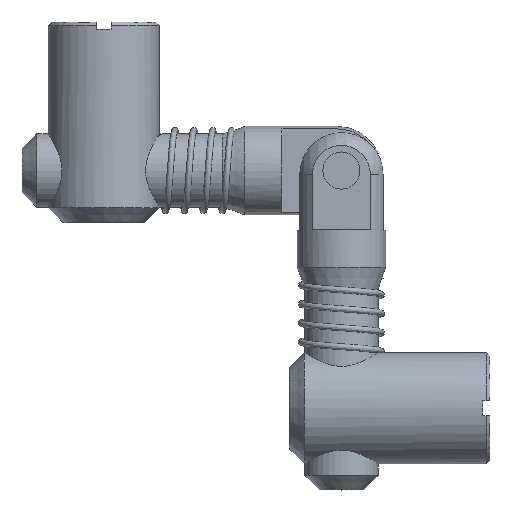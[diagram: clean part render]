
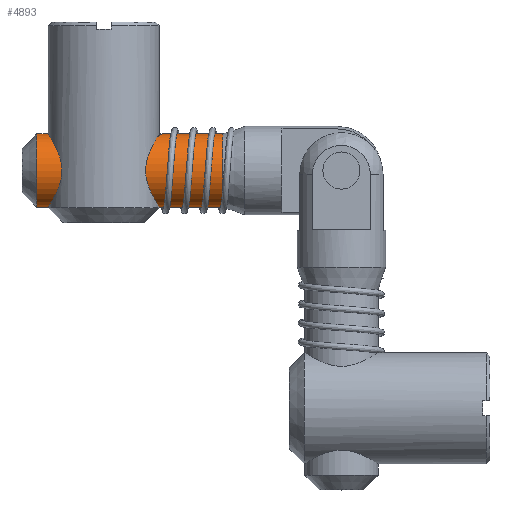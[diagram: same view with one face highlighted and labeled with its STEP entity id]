
A CAD part, top view. The second image highlights one B-rep face of the part: STEP entity #4893.
In plain terms, the highlighted cylindrical face has radius 4.95 mm (diameter 9.9 mm), a full revolution.
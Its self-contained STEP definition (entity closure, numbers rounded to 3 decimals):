
#20=FACE_BOUND('',#642,.T.);
#136=B_SPLINE_CURVE_WITH_KNOTS('',3,(#10367,#10368,#10369,#10370,#10371,
#10372,#10373,#10374,#10375,#10376,#10377,#10378,#10379,#10380,#10381,#10382,
#10383,#10384,#10385,#10386,#10387,#10388,#10389,#10390,#10391,#10392,#10393,
#10394,#10395,#10396,#10397,#10398,#10399,#10400,#10401,#10402,#10403,#10404,
#10405,#10406,#10407,#10408,#10409,#10410,#10411,#10412,#10413,#10414,#10415,
#10416),.UNSPECIFIED.,.T.,.F.,(4,2,2,2,2,2,2,2,2,2,2,2,2,2,2,2,2,2,2,2,
2,2,2,2,4),(-3.105,-2.92,-2.734,-2.625,
-2.515,-2.422,-2.329,-2.236,
-2.142,-2.033,-1.923,-1.738,
-1.552,-1.387,-1.221,-1.102,
-0.982,-0.879,-0.776,-0.673,
-0.57,-0.451,-0.331,-0.165,
0.),.UNSPECIFIED.);
#380=FACE_OUTER_BOUND('',#641,.T.);
#641=EDGE_LOOP('',(#3565,#3566,#3567,#3568));
#642=EDGE_LOOP('',(#3569));
#908=LINE('',#10421,#1447);
#1447=VECTOR('',#5705,4.95);
#1990=CIRCLE('',#5191,4.95);
#1991=CIRCLE('',#5192,4.95);
#2198=VERTEX_POINT('',#10365);
#2199=VERTEX_POINT('',#10418);
#2200=VERTEX_POINT('',#10420);
#2738=EDGE_CURVE('',#2198,#2198,#136,.T.);
#2739=EDGE_CURVE('',#2199,#2199,#1990,.T.);
#2740=EDGE_CURVE('',#2199,#2200,#908,.T.);
#2741=EDGE_CURVE('',#2200,#2200,#1991,.T.);
#3565=ORIENTED_EDGE('',*,*,#2739,.F.);
#3566=ORIENTED_EDGE('',*,*,#2740,.T.);
#3567=ORIENTED_EDGE('',*,*,#2741,.T.);
#3568=ORIENTED_EDGE('',*,*,#2740,.F.);
#3569=ORIENTED_EDGE('',*,*,#2738,.F.);
#4860=CYLINDRICAL_SURFACE('',#5190,4.95);
#4893=ADVANCED_FACE('',(#380,#20),#4860,.T.);
#5190=AXIS2_PLACEMENT_3D('',#10417,#5701,#5702);
#5191=AXIS2_PLACEMENT_3D('',#10419,#5703,#5704);
#5192=AXIS2_PLACEMENT_3D('',#10422,#5706,#5707);
#5701=DIRECTION('center_axis',(1.,0.,0.));
#5702=DIRECTION('ref_axis',(0.,0.,
-1.));
#5703=DIRECTION('center_axis',(1.,0.,0.));
#5704=DIRECTION('ref_axis',(0.,0.,
-1.));
#5705=DIRECTION('',(-1.,0.,0.));
#5706=DIRECTION('center_axis',(1.,0.,0.));
#5707=DIRECTION('ref_axis',(0.,0.,
-1.));
#10365=CARTESIAN_POINT('',(-26.804,19.219,-1.376));
#10367=CARTESIAN_POINT('Ctrl Pts',(-26.804,19.219,-1.376));
#10368=CARTESIAN_POINT('Ctrl Pts',(-27.422,19.219,-1.376));
#10369=CARTESIAN_POINT('Ctrl Pts',(-28.085,19.311,-1.311));
#10370=CARTESIAN_POINT('Ctrl Pts',(-29.347,19.635,-1.033));
#10371=CARTESIAN_POINT('Ctrl Pts',(-29.948,19.86,-0.82));
#10372=CARTESIAN_POINT('Ctrl Pts',(-30.766,20.207,-0.399));
#10373=CARTESIAN_POINT('Ctrl Pts',(-31.084,20.352,-0.202));
#10374=CARTESIAN_POINT('Ctrl Pts',(-31.665,20.632,0.262));
#10375=CARTESIAN_POINT('Ctrl Pts',(-31.928,20.766,0.53));
#10376=CARTESIAN_POINT('Ctrl Pts',(-32.311,20.966,1.049));
#10377=CARTESIAN_POINT('Ctrl Pts',(-32.475,21.053,1.334));
#10378=CARTESIAN_POINT('Ctrl Pts',(-32.697,21.173,1.948));
#10379=CARTESIAN_POINT('Ctrl Pts',(-32.754,21.204,2.278));
#10380=CARTESIAN_POINT('Ctrl Pts',(-32.754,21.204,2.899));
#10381=CARTESIAN_POINT('Ctrl Pts',(-32.697,21.173,3.228));
#10382=CARTESIAN_POINT('Ctrl Pts',(-32.475,21.053,3.843));
#10383=CARTESIAN_POINT('Ctrl Pts',(-32.311,20.966,4.128));
#10384=CARTESIAN_POINT('Ctrl Pts',(-31.928,20.766,4.647));
#10385=CARTESIAN_POINT('Ctrl Pts',(-31.665,20.632,4.915));
#10386=CARTESIAN_POINT('Ctrl Pts',(-31.084,20.352,5.379));
#10387=CARTESIAN_POINT('Ctrl Pts',(-30.766,20.207,5.576));
#10388=CARTESIAN_POINT('Ctrl Pts',(-29.948,19.86,5.997));
#10389=CARTESIAN_POINT('Ctrl Pts',(-29.347,19.635,6.21));
#10390=CARTESIAN_POINT('Ctrl Pts',(-28.085,19.311,6.488));
#10391=CARTESIAN_POINT('Ctrl Pts',(-27.422,19.219,6.553));
#10392=CARTESIAN_POINT('Ctrl Pts',(-26.252,19.219,6.553));
#10393=CARTESIAN_POINT('Ctrl Pts',(-25.658,19.292,6.501));
#10394=CARTESIAN_POINT('Ctrl Pts',(-24.517,19.559,6.278));
#10395=CARTESIAN_POINT('Ctrl Pts',(-23.969,19.747,6.107));
#10396=CARTESIAN_POINT('Ctrl Pts',(-23.151,20.071,5.747));
#10397=CARTESIAN_POINT('Ctrl Pts',(-22.792,20.229,5.552));
#10398=CARTESIAN_POINT('Ctrl Pts',(-22.131,20.539,5.084));
#10399=CARTESIAN_POINT('Ctrl Pts',(-21.829,20.69,4.808));
#10400=CARTESIAN_POINT('Ctrl Pts',(-21.382,20.921,4.263));
#10401=CARTESIAN_POINT('Ctrl Pts',(-21.189,21.023,3.958));
#10402=CARTESIAN_POINT('Ctrl Pts',(-20.924,21.166,3.292));
#10403=CARTESIAN_POINT('Ctrl Pts',(-20.854,21.204,2.931));
#10404=CARTESIAN_POINT('Ctrl Pts',(-20.854,21.204,2.246));
#10405=CARTESIAN_POINT('Ctrl Pts',(-20.924,21.166,1.885));
#10406=CARTESIAN_POINT('Ctrl Pts',(-21.189,21.023,1.219));
#10407=CARTESIAN_POINT('Ctrl Pts',(-21.382,20.921,0.914));
#10408=CARTESIAN_POINT('Ctrl Pts',(-21.829,20.69,0.368));
#10409=CARTESIAN_POINT('Ctrl Pts',(-22.131,20.539,0.093));
#10410=CARTESIAN_POINT('Ctrl Pts',(-22.792,20.229,-0.376));
#10411=CARTESIAN_POINT('Ctrl Pts',(-23.151,20.071,-0.57));
#10412=CARTESIAN_POINT('Ctrl Pts',(-23.969,19.747,-0.93));
#10413=CARTESIAN_POINT('Ctrl Pts',(-24.517,19.559,-1.101));
#10414=CARTESIAN_POINT('Ctrl Pts',(-25.658,19.292,-1.324));
#10415=CARTESIAN_POINT('Ctrl Pts',(-26.252,19.219,-1.376));
#10416=CARTESIAN_POINT('Ctrl Pts',(-26.804,19.219,-1.376));
#10417=CARTESIAN_POINT('Origin',(8.646,16.254,2.588));
#10418=CARTESIAN_POINT('',(-12.804,16.254,7.538));
#10419=CARTESIAN_POINT('Origin',(-12.804,16.254,2.588));
#10420=CARTESIAN_POINT('',(-37.804,16.254,7.538));
#10421=CARTESIAN_POINT('',(8.646,16.254,7.538));
#10422=CARTESIAN_POINT('Origin',(-37.804,16.254,2.588));
